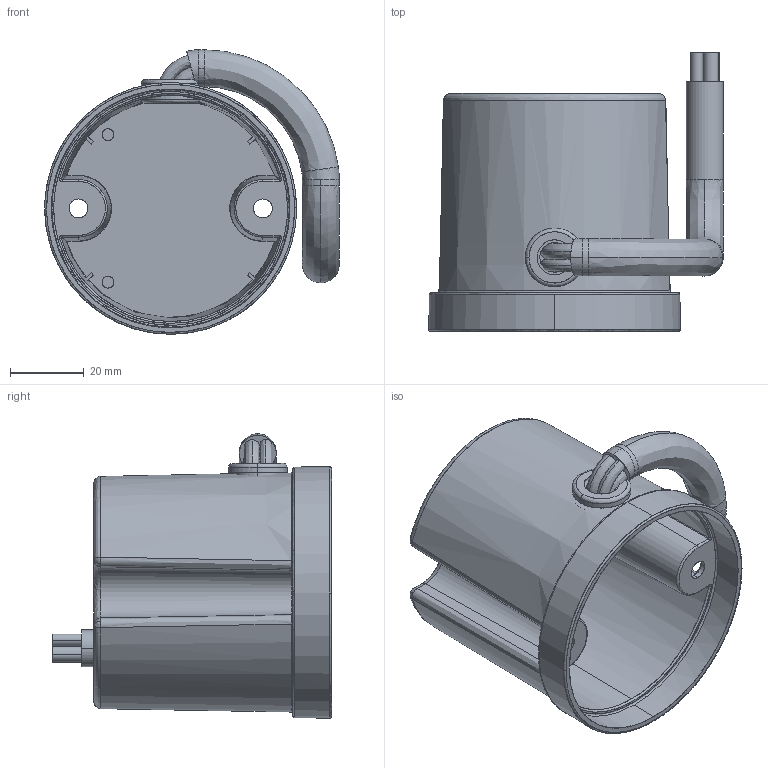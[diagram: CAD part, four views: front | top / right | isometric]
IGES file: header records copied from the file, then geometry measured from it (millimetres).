
Start section: SolidWorks IGES file using analytic representation for surfaces
Global section: file name: C:\Users\lynn\Desktop\CI71_Lynn.IGS; native system: SolidWorks 2020; preprocessor: SolidWorks 2020; author: lynn; date: 220103.173827; units: millimetre
Bounding box: 79.86 x 75.68 x 77.14 mm (x, y, z)
Surface area: 41924.4 mm2 (no closed solid volume)
Topology: 0 solids, 0 shells, 223 faces, 3103 edges, 3087 vertices
Faces by surface type: bspline 137, revolution 86
